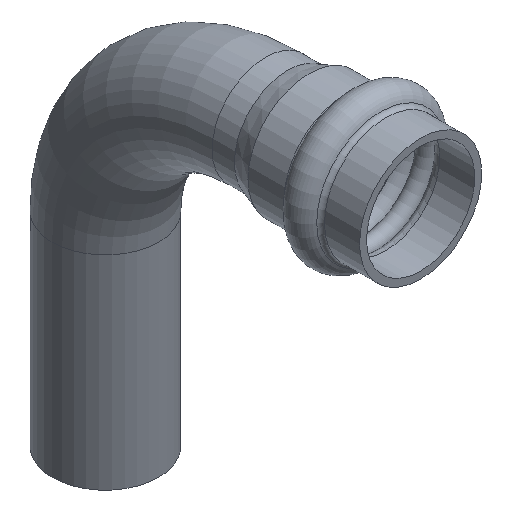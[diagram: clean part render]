
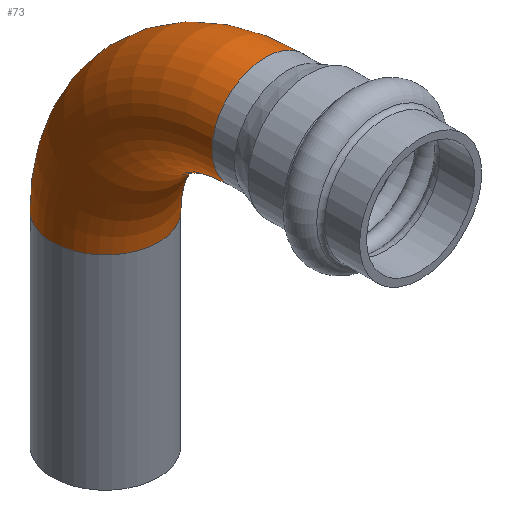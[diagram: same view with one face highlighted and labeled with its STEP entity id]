
A CAD part, isometric view. The second image highlights one B-rep face of the part: STEP entity #73.
In plain terms, the highlighted toroidal (fillet/blend) face has major radius 33 mm and minor radius 11 mm.
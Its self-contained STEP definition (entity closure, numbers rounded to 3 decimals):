
#73=ADVANCED_FACE('',(#254,#256),#258,.T.);
#254=FACE_BOUND('',#255,.T.);
#255=EDGE_LOOP('',(#310,#311));
#256=FACE_OUTER_BOUND('',#257,.T.);
#257=EDGE_LOOP('',(#312));
#258=TOROIDAL_SURFACE('',#259,33.,11.);
#259=AXIS2_PLACEMENT_3D('',#260,#261,#262);
#260=CARTESIAN_POINT('',(0.,32.,-33.));
#261=DIRECTION('',(-1.,0.,0.));
#262=DIRECTION('',(0.,0.,1.));
#310=ORIENTED_EDGE('',*,*,#337,.T.);
#311=ORIENTED_EDGE('',*,*,#336,.T.);
#312=ORIENTED_EDGE('',*,*,#335,.F.);
#335=EDGE_CURVE('',#382,#382,#383,.T.);
#336=EDGE_CURVE('',#384,#385,#386,.T.);
#337=EDGE_CURVE('',#385,#384,#387,.T.);
#382=VERTEX_POINT('',#498);
#383=CIRCLE('',#499,11.);
#384=VERTEX_POINT('',#503);
#385=VERTEX_POINT('',#504);
#386=CIRCLE('',#505,11.);
#387=CIRCLE('',#509,11.);
#498=CARTESIAN_POINT('',(-11.,65.,-33.));
#499=AXIS2_PLACEMENT_3D('',#500,#501,#502);
#500=CARTESIAN_POINT('',(0.,65.,-33.));
#501=DIRECTION('',(0.,0.,-1.));
#502=DIRECTION('',(-1.,0.,0.));
#503=CARTESIAN_POINT('',(-11.,32.,0.));
#504=CARTESIAN_POINT('',(0.,32.,11.));
#505=AXIS2_PLACEMENT_3D('',#506,#507,#508);
#506=CARTESIAN_POINT('',(0.,32.,0.));
#507=DIRECTION('',(0.,1.,0.));
#508=DIRECTION('',(-1.,0.,0.));
#509=AXIS2_PLACEMENT_3D('',#510,#511,#512);
#510=CARTESIAN_POINT('',(0.,32.,0.));
#511=DIRECTION('',(0.,1.,0.));
#512=DIRECTION('',(0.,0.,1.));
